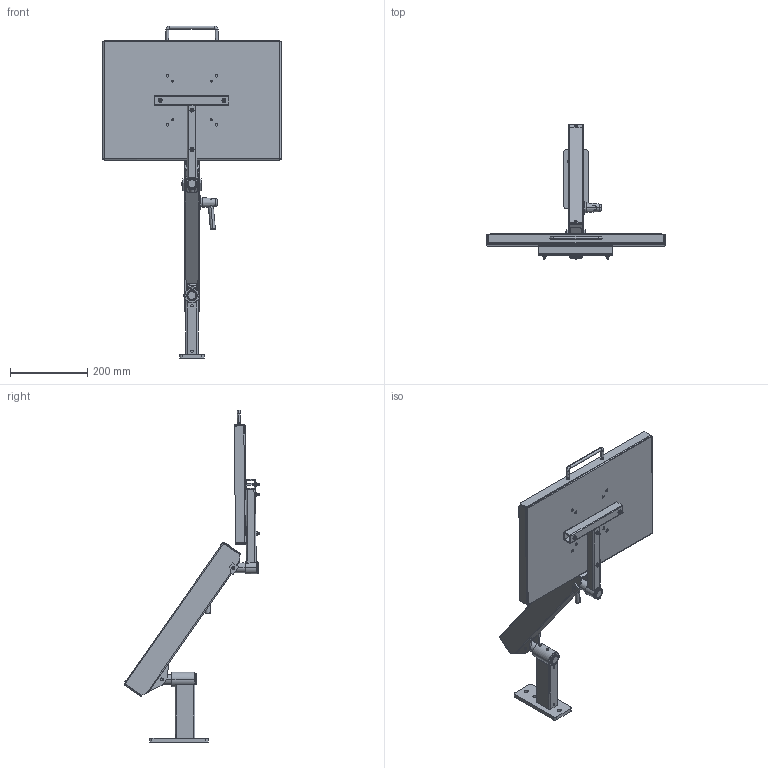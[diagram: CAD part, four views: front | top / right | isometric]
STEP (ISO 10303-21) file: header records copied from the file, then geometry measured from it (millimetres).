
FILE_DESCRIPTION (( 'STEP AP203' ), '1' );
FILE_NAME ('70-0721-00 REV AA, 13.5in FLEX SYSTEM, TOOL TRAY, WALL MOUNT W EXT - ANGLE DOWN.STEP', '2025-09-15T22:07:20', ( '' ), ( '' ), 'SwSTEP 2.0', 'SolidWorks 2025', '' );
FILE_SCHEMA (( 'CONFIG_CONTROL_DESIGN' ));
Length unit declared in the file: inch
Products named in the file (52): 025-067-00, HANDLE, U SHAPED, 8-32; 71-0972-99 REV AA, END CAP, FLEX; 70-0050-00 REV AA, T BAR; 007-031-00_007-031-00; 11-0650-00 REV AA, BRAKE HANDLE ASSEMBLY; 013-062-00, SPRING, RED, 1x8_ISO425203; 71-0038-RX REV AA, PIVOT, KNUCKLE, ELECTROLESS NICKEL; 007-036-00, SHSS, 1''4-28, .25L_007-036-00; 016-070-00, BEARING, PLASTIC, .5ID x .625 OD x .75; 71-1051-RX REV AA, SPRING BLOCK; 002-041-00_002-041-00; 71-0037-RX REV AA, PIVOT, THREADED; 71-1033-RX REV AA, BOLT, ADJUSTING, 10.9; 71-0031-RX REV AA, KNUCKLE, MOUNT_MACHINE; 71-1300-RX REV AA, HOUSING, 13.5in FLEX; 016-007-00, OILITE PLUS BEARING, 0.876 id x 1.002 od x 0.75 lg; 71-0071-RX REV AA, AXLE PIN, LONG; 70-0401-00 REV AA, 18x12 SUPPORT TRAY ASSEMBLY; 71-1032-RX REV AA, SPRING ROD, 13.5in FLEX; 71-0030-RX REV AA, KNUCKLE, LOAD_MACHINE; 004-050-00, WASHER, FIBER, .032 THK, .265ID; 011-033-00; 002-091-00, FHSCS, 10-32x1.5, BO_002-091-00; 016-008-00, OILITE PLUS BEARING, 0.876 id x 1.002 od x 1.25 lg; 004-144-00; 70-0721-00 REV AA, 13.5in FLEX SYSTEM, TOOL TRAY, WALL MOUNT W EXT - ANGLE DOWN; 002-100-00, BHSCS, 8-32x.375_002-100-00; 011-020-00 REV AA, PIN, KNURLED, 1.0LG x .25OD; 70-0095-00 REV AA, STUD MOUNT, 6in EXT; 010-012-00, RETAINING RING, EXTERNAL, .875in SHAFT; 71-0091-RX REV AA, HOUSING, WALL MOUNT, 6in EXTENSION; 71-0052-RX REV AA, HOUSING, T AND STRAIGHT BAR CROSS SECTION_MACHINE; 71-0040-RX REV AA, BRAKE BLOCK, WIDE_MACHINE; 71-0047-RX REV AA, HOUSING, T AND STRAIGHT BAR_MACHINE; 71-2113-RX REV AA, HOUSING, BEARING, TALL, 1.5OD_MACHINE; 71-0217-RX REV AA, PLATE, NARROW WALL MOUNT_Laser; 71-0013-RX REV AA, HOUSING, BEARING, SHORT_MACHINE; 11-0450-00 REV AA, FOAM, YELLOW, 18x12; 71-0070-RX REV AA, AXLE PIN, SHORT; 010-011-00, RETAINING RING, EXT, .250 SHAFT_010-011-00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
Assembly tree (80 placements, depth 4):
  70-0721-00 REV AA, 13.5in FLEX SYSTEM, TOOL TRAY, WALL MOUNT W EXT - ANGLE DOWN
    70-0095-00 REV AA, STUD MOUNT, 6in EXT
      71-0217-RX REV AA, PLATE, NARROW WALL MOUNT_Laser
      71-0091-RX REV AA, HOUSING, WALL MOUNT, 6in EXTENSION
      71-2113-RX REV AA, HOUSING, BEARING, TALL, 1.5OD_MACHINE
      016-007-00, OILITE PLUS BEARING, 0.876 id x 1.002 od x 0.75 lg
      016-008-00, OILITE PLUS BEARING, 0.876 id x 1.002 od x 1.25 lg
      007-036-00, SHSS, 1''4-28, .25L_007-036-00
    70-1321-00 REV AA, FLEX SECTION, 13.5in, 4-21 LB
      71-0031-RX REV AA, KNUCKLE, MOUNT_MACHINE
      71-1032-RX REV AA, SPRING ROD, 13.5in FLEX
      71-0030-RX REV AA, KNUCKLE, LOAD_MACHINE
      71-0038-RX REV AA, PIVOT, KNUCKLE, ELECTROLESS NICKEL
      71-1033-RX REV AA, BOLT, ADJUSTING, 10.9
      71-0037-RX REV AA, PIVOT, THREADED
      71-0040-RX REV AA, BRAKE BLOCK, WIDE_MACHINE
      71-1051-RX REV AA, SPRING BLOCK
      71-0070-RX REV AA, AXLE PIN, SHORT
      11-0027-RX REV AA, PLASTIC DISC, BRAKE ASSEMBLY_MACHINE
      11-0650-00 REV AA, BRAKE HANDLE ASSEMBLY
        11-0601-99 REV AA, CONICAL KNOB, BRAKE ASSEMBLY
        11-0602-RX REV AA, HANDLE, BRAKE ASSEMBLY
        11-0027-RX REV AA, PLASTIC DISC, BRAKE ASSEMBLY_MACHINE
        005-084-00, BOLT, 1''4-20x2.75
      71-1301-BLKX REV AA, FLEX HOUSING, 13.5in, BLACK_Powder Coat
        71-1300-RX REV AA, HOUSING, 13.5in FLEX
        71-0029-RX REV AA, TAB, LOAD  x2
        71-0028-RX REV AA, TAB, MOUNT_MACHINE  x2
      71-0071-RX REV AA, AXLE PIN, LONG
      010-011-00, RETAINING RING, EXT, .250 SHAFT_010-011-00  x4
      71-0972-99 REV AA, END CAP, FLEX  x2
      006-004-00_006-004-00  x2
      002-041-00_002-041-00  x2
      010-012-00, RETAINING RING, EXTERNAL, .875in SHAFT  x2
      011-033-00
      004-050-00, WASHER, FIBER, .032 THK, .265ID  x8
      011-020-00 REV AA, PIN, KNURLED, 1.0LG x .25OD  x2
      004-144-00  x3
      006-059-00
      013-062-00, SPRING, RED, 1x8_ISO425203
      016-070-00, BEARING, PLASTIC, .5ID x .625 OD x .75  x2
    70-0401-00 REV AA, 18x12 SUPPORT TRAY ASSEMBLY
      11-0401-00 REV AA, 18x12 TOOL TRAY, BLACK
      70-0050-00 REV AA, T BAR
        71-0047-RX REV AA, HOUSING, T AND STRAIGHT BAR_MACHINE
        71-0013-RX REV AA, HOUSING, BEARING, SHORT_MACHINE
        71-0052-RX REV AA, HOUSING, T AND STRAIGHT BAR CROSS SECTION_MACHINE
        016-008-00, OILITE PLUS BEARING, 0.876 id x 1.002 od x 1.25 lg
        007-031-00_007-031-00
      002-091-00, FHSCS, 10-32x1.5, BO_002-091-00  x4
      006-008-00, NUT, HEX, 10-32 x .125_006-008-00  x4
      025-067-00, HANDLE, U SHAPED, 8-32
      002-100-00, BHSCS, 8-32x.375_002-100-00  x2
      11-0450-00 REV AA, FOAM, YELLOW, 18x12
Bounding box: 461.77 x 351.7 x 859.78 mm (x, y, z)
Volume: 1632294.3 mm3; surface area: 1132002.9 mm2
Topology: 76 solids, 76 shells, 2046 faces, 4975 edges, 3075 vertices
Faces by surface type: cylinder 906, plane 567, cone 418, torus 89, bspline 56, sphere 10
Entity records: 90110 total; most frequent: CARTESIAN_POINT 54434, ORIENTED_EDGE 6182, DIRECTION 6087, EDGE_CURVE 3091, AXIS2_PLACEMENT_3D 2350, VERTEX_POINT 1921, EDGE_LOOP 1418, VECTOR 1387
